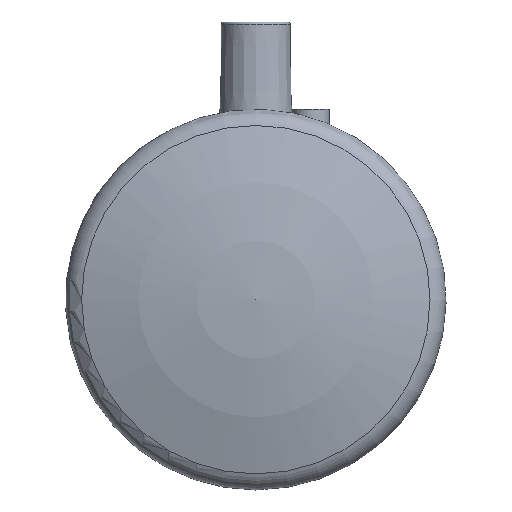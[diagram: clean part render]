
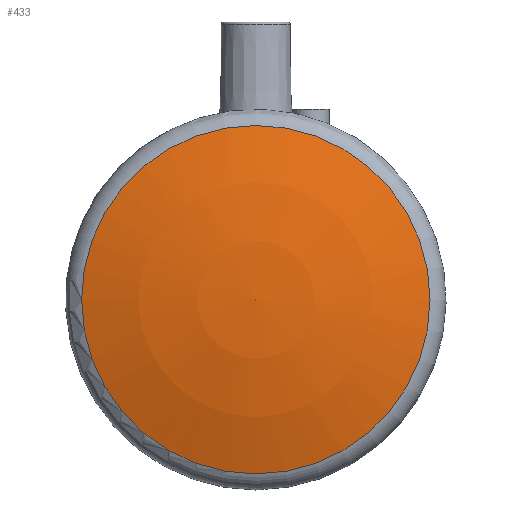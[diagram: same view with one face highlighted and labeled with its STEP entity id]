
A CAD part, left-side view. The second image highlights one B-rep face of the part: STEP entity #433.
In plain terms, the highlighted spherical face has radius 126.518 mm.
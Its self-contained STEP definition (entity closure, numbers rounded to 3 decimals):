
#42=SPHERICAL_SURFACE('',#496,126.518);
#122=ORIENTED_EDGE('',*,*,#215,.T.);
#215=EDGE_CURVE('',#263,#263,#294,.F.);
#263=VERTEX_POINT('',#812);
#294=CIRCLE('',#497,37.955);
#326=EDGE_LOOP('',(#122));
#382=FACE_BOUND('',#326,.T.);
#433=ADVANCED_FACE('',(#382),#42,.T.);
#496=AXIS2_PLACEMENT_3D('',#810,#586,#587);
#497=AXIS2_PLACEMENT_3D('',#811,#588,#589);
#586=DIRECTION('',(-1.,0.,0.));
#587=DIRECTION('',(0.,0.,-1.));
#588=DIRECTION('',(1.,0.,0.));
#589=DIRECTION('',(0.,0.,-1.));
#810=CARTESIAN_POINT('',(74.518,0.,0.));
#811=CARTESIAN_POINT('',(-46.173,0.,0.));
#812=CARTESIAN_POINT('',(-46.173,0.,-37.955));
